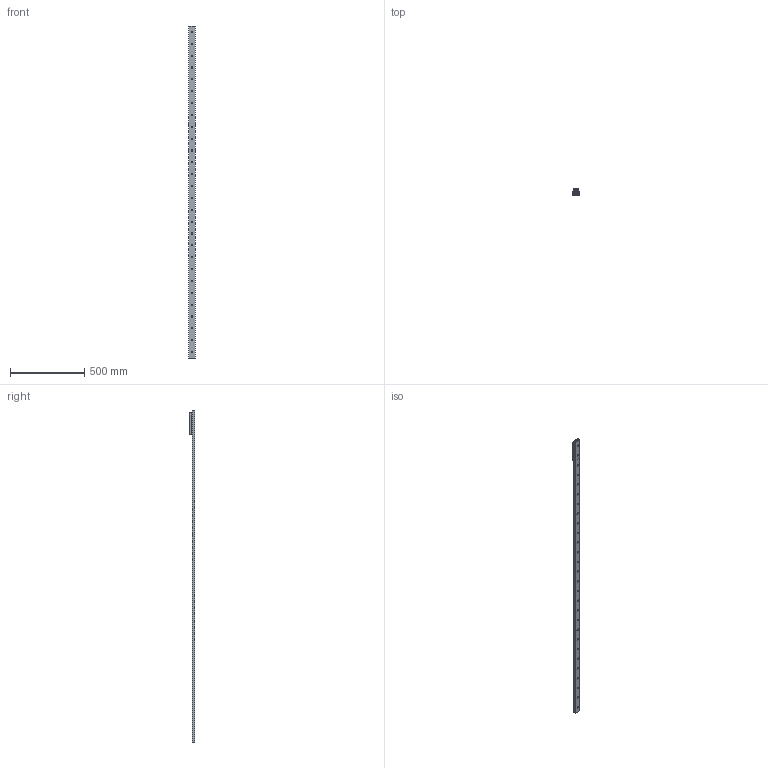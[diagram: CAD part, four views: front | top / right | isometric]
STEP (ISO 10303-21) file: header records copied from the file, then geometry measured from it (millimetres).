
FILE_DESCRIPTION( ( 'STEP AP214' ), '1' );
FILE_NAME( 'p:/temp/worker_15/temp/exporttempdir_3956_198_14OT5/format_2/TGV-02240_1_RV43G-3.stp', '2021-05-14T19:17:03', ( 'License CC BY-ND 4.0' ), ( 'CADENAS' ), ' ', 'PARTsolutions', ' ' );
FILE_SCHEMA( ( 'AUTOMOTIVE_DESIGN { 1 0 10303 214 1 1 1 1 }' ) );
Length unit declared in the file: millimetre
Products named in the file (6): TGV-02240/1/RV43G-3; _TGV43-2240-(3-1); _RVG43-3-slider; _RGNV43R; _RGAV43R; _WR43G-01
Assembly tree (7 placements, depth 2):
  TGV-02240/1/RV43G-3
    _TGV43-2240-(3-1)
    _RVG43-3-slider
    _RGNV43R  x2
    _RGAV43R
    _WR43G-01  x2
Bounding box: 43 x 37 x 2240 mm (x, y, z)
Volume: 940929.8 mm3; surface area: 378642.1 mm2
Topology: 7 solids, 7 shells, 1097 faces, 2864 edges, 1863 vertices
Faces by surface type: plane 663, cylinder 324, cone 67, bspline 34, torus 9
Full cylindrical faces by diameter (mm): 1.76 x4, 3 x8, 6 x4, 6.647 x4, 6.8 x3, 8 x3, 8.5 x28, 11 x11, 15 x6, 15.5 x1, 18.98 x2, 19 x1, 31.4 x6
Entity records: 26453 total; most frequent: CARTESIAN_POINT 4150, DIRECTION 3547, ORIENTED_EDGE 3232, EDGE_CURVE 1616, AXIS2_PLACEMENT_3D 1370, VERTEX_POINT 1135, EDGE_LOOP 965, LINE 807
